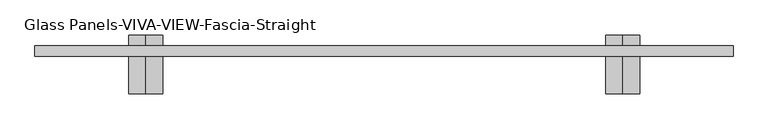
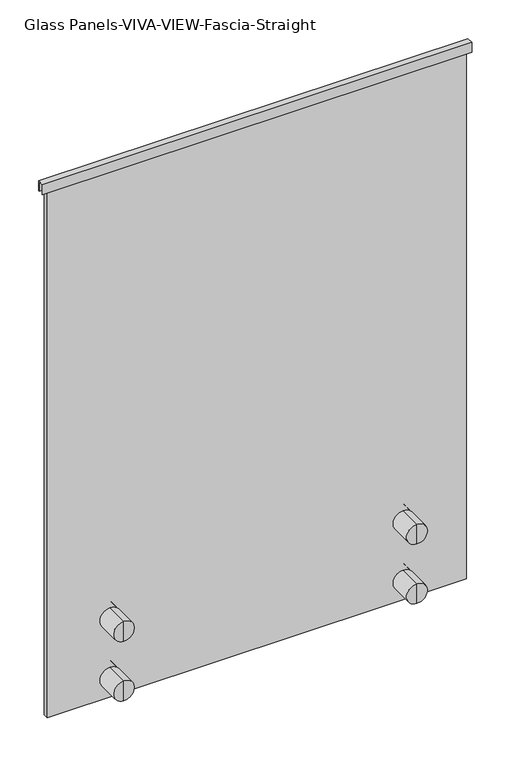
"""IFC4 building model written with IfcOpenShell, lengths in millimetres: railing geometry, Glass Panels-VIVA-VIEW-Fascia-Straight."""

import ifcopenshell
import ifcopenshell.guid

model = None  # the IFC model being written
_history = None  # IfcOwnerHistory: only IFC2X3 demands one
_inside = {}  # id of a spatial element -> (the spatial element, [elements in it])
_under = {}  # id of a project, library or spatial element -> (it, [spatial elements below it])
_declared = {}  # id of a project -> (the project, [libraries it declares])
_typed = {}  # id of a type object -> (the type object, [elements of that type])
_made_of = {}  # id of a material, layer set ... -> (it, [elements and type objects made of it])


def new_model(schema):
    """Start an empty IFC model of exactly this schema.

    Asked for "IFC4X3", IfcOpenShell would pick the latest addendum, in which some entities
    have other attributes; the version numbers below select the first issue.
    IFC2X3 requires an IfcOwnerHistory on every rooted entity: one is made here for all.
    """
    global model, _history
    if schema == "IFC4X3":
        model = ifcopenshell.file(schema_version=(4, 3, 0, 0))
    else:
        model = ifcopenshell.file(schema=schema)
    _inside.clear()
    _under.clear()
    _declared.clear()
    _typed.clear()
    _made_of.clear()
    _history = None
    if model.schema == "IFC2X3":
        org = make("IfcOrganization", Name="unknown")
        user = make(
            "IfcPersonAndOrganization",
            ThePerson=make("IfcPerson", FamilyName="unknown"),
            TheOrganization=org,
        )
        app = make(
            "IfcApplication",
            ApplicationDeveloper=org,
            Version="unknown",
            ApplicationFullName="unknown",
            ApplicationIdentifier="unknown",
        )
        _history = make(
            "IfcOwnerHistory",
            OwningUser=user,
            OwningApplication=app,
            ChangeAction="ADDED",
            CreationDate=0,
        )
    return model


def make(cls, **values):
    """One entity of the class cls with the attributes given. An attribute that is None is left unset."""
    return model.create_entity(
        cls, **{name: value for name, value in values.items() if value is not None}
    )


def rooted(cls, **values):
    """An entity with a GlobalId (a new one), such as an element, a storey or a relation."""
    return make(cls, GlobalId=ifcopenshell.guid.new(), OwnerHistory=_history, **values)


def si_unit(unit_type, name, prefix=None):
    """IfcSIUnit, for example si_unit("LENGTHUNIT", "METRE", prefix="MILLI")."""
    return make("IfcSIUnit", UnitType=unit_type, Prefix=prefix, Name=name)


def assignment(units):
    """IfcUnitAssignment: the units of a project."""
    return None if units is None else make("IfcUnitAssignment", Units=units)


def point(xyz):
    """IfcCartesianPoint."""
    return None if xyz is None else make("IfcCartesianPoint", Coordinates=xyz)


def direction(xyz):
    """IfcDirection."""
    return None if xyz is None else make("IfcDirection", DirectionRatios=xyz)


def frame(location, z_axis=None, x_axis=None):
    """IfcAxis2Placement3D, a coordinate frame: its origin and axes. An axis left out is left unset."""
    return make(
        "IfcAxis2Placement3D",
        Location=point(location),
        Axis=direction(z_axis),
        RefDirection=direction(x_axis),
    )


def origin():
    """The frame at (0, 0, 0) with its axes left unset."""
    return frame((0.0, 0.0, 0.0))


def place(relative_to, where):
    """IfcLocalPlacement: puts the frame where relative to a parent placement (None: the world)."""
    return make(
        "IfcLocalPlacement", PlacementRelTo=relative_to, RelativePlacement=where
    )


def context(
    kind, dimensions, precision=None, world=None, true_north=None, identifier=None
):
    """IfcGeometricRepresentationContext, for example the 3D "Model" context."""
    return make(
        "IfcGeometricRepresentationContext",
        ContextIdentifier=identifier,
        ContextType=kind,
        CoordinateSpaceDimension=dimensions,
        Precision=precision,
        WorldCoordinateSystem=world,
        TrueNorth=true_north,
    )


def project(units=None, contexts=None):
    """IfcProject with its units and contexts."""
    return rooted(
        "IfcProject",
        Name="project",
        RepresentationContexts=contexts,
        UnitsInContext=assignment(units),
    )


def spatial(cls, under=None, at=None, **own):
    """A site, building, storey or space (cls), placed at a placement, below another one or the project."""
    s = rooted(cls, ObjectPlacement=at, **own)
    if under is not None:
        _under.setdefault(under.id(), (under, []))[1].append(s)
    return s


def polyline(points):
    """IfcPolyline through the points."""
    return make("IfcPolyline", Points=[point(p) for p in points])


def circle_curve(where, radius):
    """IfcCircle in the frame where."""
    return make("IfcCircle", Position=where, Radius=radius)


def outline(outer, holes=None, kind="AREA"):
    """IfcArbitraryClosedProfileDef: a profile drawn as a closed curve; with holes, ...WithVoids."""
    if holes is None:
        return make("IfcArbitraryClosedProfileDef", ProfileType=kind, OuterCurve=outer)
    return make(
        "IfcArbitraryProfileDefWithVoids",
        ProfileType=kind,
        OuterCurve=outer,
        InnerCurves=holes,
    )


def extrude(swept, where, along, depth):
    """IfcExtrudedAreaSolid: the profile swept, set in the frame where, extruded along a direction by depth."""
    return make(
        "IfcExtrudedAreaSolid",
        SweptArea=swept,
        Position=where,
        ExtrudedDirection=direction(along),
        Depth=depth,
    )


def shape(context_of_items, identifier, shape_type, items):
    """IfcShapeRepresentation: the items that make up one representation, for example the "Body"."""
    return make(
        "IfcShapeRepresentation",
        ContextOfItems=context_of_items,
        RepresentationIdentifier=identifier,
        RepresentationType=shape_type,
        Items=items,
    )


def source(mapping_origin, context_of_items, identifier, shape_type, items):
    """IfcRepresentationMap: a shape defined once, which mapped items show again and again."""
    return make(
        "IfcRepresentationMap",
        MappingOrigin=mapping_origin,
        MappedRepresentation=shape(context_of_items, identifier, shape_type, items),
    )


def transform(
    local_origin,
    x_axis=None,
    y_axis=None,
    z_axis=None,
    scale=None,
    scale2=None,
    scale3=None,
    uniform=True,
):
    """IfcCartesianTransformationOperator3D, or its non-uniform kind. x_axis, y_axis, z_axis: its Axis1, 2, 3."""
    if uniform:
        return make(
            "IfcCartesianTransformationOperator3D",
            Axis1=direction(x_axis),
            Axis2=direction(y_axis),
            LocalOrigin=point(local_origin),
            Scale=scale,
            Axis3=direction(z_axis),
        )
    return make(
        "IfcCartesianTransformationOperator3DnonUniform",
        Axis1=direction(x_axis),
        Axis2=direction(y_axis),
        LocalOrigin=point(local_origin),
        Scale=scale,
        Axis3=direction(z_axis),
        Scale2=scale2,
        Scale3=scale3,
    )


def mapped(mapping_source, mapping_target):
    """IfcMappedItem: shows the shape of a source again, moved by a transform."""
    return make(
        "IfcMappedItem", MappingSource=mapping_source, MappingTarget=mapping_target
    )


def made_of(thing, what):
    """Note that an element or type object is made of a material, layer set ...; save() writes the relation."""
    if what is not None:
        _made_of.setdefault(what.id(), (what, []))[1].append(thing)
    return thing


def element(
    cls,
    number,
    at=None,
    inside=None,
    cuts=None,
    type_object=None,
    material=None,
    context=None,
    identifier="Body",
    shape_type=None,
    held_by="IfcProductDefinitionShape",
    body=None,
    shapes=None,
    **own,
):
    """One element of the class cls, such as IfcWall. Its Tag is "e" and its number.

    at: its placement. inside: the storey or other place that contains it. cuts: it is an
    opening in that element (IfcRelVoidsElement). A single representation is given by context,
    identifier, shape_type and body (its items); several are given by shapes. held_by: the class
    of the entity that holds the representations. save() writes the other relations.
    """
    e = rooted(cls, Tag="e%d" % number, ObjectPlacement=at, **own)
    if body is not None:
        shapes = [shape(context, identifier, shape_type, body)]
    if shapes is not None:
        e.Representation = make(held_by, Representations=shapes)
    if inside is not None:
        _inside.setdefault(inside.id(), (inside, []))[1].append(e)
    if cuts is not None:
        rooted(
            "IfcRelVoidsElement", RelatingBuildingElement=cuts, RelatedOpeningElement=e
        )
    if type_object is not None:
        _typed.setdefault(type_object.id(), (type_object, []))[1].append(e)
    return made_of(e, material)


def aggregate(whole, parts):
    """IfcRelAggregates: a whole, such as a stair, and the parts it consists of."""
    return rooted("IfcRelAggregates", RelatingObject=whole, RelatedObjects=parts)


def save(model, path):
    """Write the relations noted so far, then the file.

    IfcRelAggregates (storeys below a building ...), IfcRelContainedInSpatialStructure (elements
    in a storey), IfcRelDefinesByType, IfcRelAssociatesMaterial and IfcRelDeclares: one each for
    every whole, place, type object, material and project.
    """
    for whole, parts in _under.values():
        aggregate(whole, parts)
    for where, things in _inside.values():
        rooted(
            "IfcRelContainedInSpatialStructure",
            RelatedElements=things,
            RelatingStructure=where,
        )
    for kind, things in _typed.values():
        rooted("IfcRelDefinesByType", RelatedObjects=things, RelatingType=kind)
    for what, things in _made_of.values():
        rooted("IfcRelAssociatesMaterial", RelatedObjects=things, RelatingMaterial=what)
    for by, libraries in _declared.values():
        rooted("IfcRelDeclares", RelatingContext=by, RelatedDefinitions=libraries)
    model.write(path)


def plane_surface(at):
    """IfcPlane: the flat surface through the origin of the frame at, square to its z axis."""
    return make("IfcPlane", Position=at)


def cylinder_surface(at, radius):
    """IfcCylindricalSurface: all points at the distance radius from the z axis of the frame at."""
    return make("IfcCylindricalSurface", Position=at, Radius=radius)


def advanced_brep(points, edges, surfaces, faces):
    """IfcAdvancedBrep: a solid bounded by faces that lie on surfaces and meet in shared edges.

    An edge is (start, end): straight between two places in points (the first is 0);
    or (start, end, curve); or (start, end, curve, False) where it runs against its curve.
    A face is (place in surfaces, loops), or (place, loops, False) where it looks against
    its surface's normal. A loop lists edges by number (the first is 1), with a minus sign
    where the edge is run from its end to its start. The first loop is the outer one.
    """
    corners = [point(p) for p in points]
    vertices = [make("IfcVertexPoint", VertexGeometry=c) for c in corners]
    made = []
    for start, end, *more in edges:
        made.append(
            make(
                "IfcEdgeCurve",
                EdgeStart=vertices[start],
                EdgeEnd=vertices[end],
                EdgeGeometry=more[0] if more else make("IfcPolyline", Points=[corners[start], corners[end]]),
                SameSense=more[1] if len(more) > 1 else True,
            )
        )
    hull = []
    for where, loops, *sense in faces:
        bounds = []
        for j, loop in enumerate(loops):
            ring = [make("IfcOrientedEdge", EdgeElement=made[abs(k) - 1], Orientation=k > 0) for k in loop]
            bounds.append(
                make(
                    "IfcFaceOuterBound" if j == 0 else "IfcFaceBound",
                    Bound=make("IfcEdgeLoop", EdgeList=ring),
                    Orientation=True,
                )
            )
        hull.append(make("IfcAdvancedFace", Bounds=bounds, FaceSurface=surfaces[where], SameSense=sense[0] if sense else True))
    return make("IfcAdvancedBrep", Outer=make("IfcClosedShell", CfsFaces=hull))


def glass_panels_viva_view_fascia_straight_2bf10b43(model_context):
    return source(origin(), model_context, "Body", "SolidModel", [
        extrude(outline(polyline([(-1461.4844585, 4140.2), (-1445.6094585, 4140.2), (-1445.6094585, 4114.8), (-1447.1969585, 4114.8), (-1447.1969585, 4138.6125), (-1459.8969585, 4138.6125), (-1459.8969585, 4114.8), (-1461.4844585, 4114.8), (-1461.4844585, 4140.2)])), frame((19925.5266433, 0.0, 0.0), z_axis=(1.0, 0.0, 0.0), x_axis=(0.0, 1.0, 0.0)), (0.0, 0.0, 1.0), 1041.4),
        advanced_brep(
        [(20091.0096899, -1429.7347524, 2794.0), (20091.0096899, -1429.7347524, 2819.4), (20091.0096899, -1429.7347524, 2844.8), (20091.0096899, -1447.1972524, 2794.0), (20091.0096899, -1447.1972524, 2844.8), (20091.0096899, -1447.1972524, 2813.685), (20091.0096899, -1447.1972524, 2825.115), (20091.0096899, -1459.8972524, 2813.685), (20091.0096899, -1459.8972524, 2825.115), (20091.0096899, -1459.8972524, 2794.0), (20091.0096899, -1459.8972524, 2844.8), (20091.0096899, -1517.0471054, 2794.0), (20091.0096899, -1517.0471054, 2844.8), (20091.0096899, -1517.0471054, 2819.4)],
        [
            (0, 1),
            (1, 2),
            (2, 0, circle_curve(frame((20091.0096899, -1429.7347524, 2819.4), z_axis=(0.0, 1.0, 0.0), x_axis=(0.0, 0.0, 1.0)), 25.4)),
            (0, 2, circle_curve(frame((20091.0096899, -1429.7347524, 2819.4), z_axis=(0.0, 1.0, 0.0), x_axis=(0.0, 0.0, 1.0)), 25.4)),
            (3, 0),
            (2, 4),
            (4, 3, circle_curve(frame((20091.0096899, -1447.1972524, 2819.4), z_axis=(0.0, 1.0, 0.0), x_axis=(0.0, 0.0, 1.0)), 25.4)),
            (3, 4, circle_curve(frame((20091.0096899, -1447.1972524, 2819.4), z_axis=(0.0, 1.0, 0.0), x_axis=(0.0, 0.0, 1.0)), 25.4)),
            (5, 3),
            (4, 6),
            (6, 5, circle_curve(frame((20091.0096899, -1447.1972524, 2819.4), z_axis=(0.0, 1.0, 0.0), x_axis=(0.0, 0.0, 1.0)), 5.715)),
            (5, 6, circle_curve(frame((20091.0096899, -1447.1972524, 2819.4), z_axis=(0.0, 1.0, 0.0), x_axis=(0.0, 0.0, 1.0)), 5.715)),
            (7, 5),
            (6, 8),
            (8, 7, circle_curve(frame((20091.0096899, -1459.8972524, 2819.4), z_axis=(0.0, 1.0, 0.0), x_axis=(0.0, 0.0, 1.0)), 5.715)),
            (7, 8, circle_curve(frame((20091.0096899, -1459.8972524, 2819.4), z_axis=(0.0, 1.0, 0.0), x_axis=(0.0, 0.0, 1.0)), 5.715)),
            (9, 7),
            (8, 10),
            (10, 9, circle_curve(frame((20091.0096899, -1459.8972524, 2819.4), z_axis=(0.0, 1.0, 0.0), x_axis=(0.0, 0.0, 1.0)), 25.4)),
            (9, 10, circle_curve(frame((20091.0096899, -1459.8972524, 2819.4), z_axis=(0.0, 1.0, 0.0), x_axis=(0.0, 0.0, 1.0)), 25.4)),
            (11, 9),
            (10, 12),
            (12, 11, circle_curve(frame((20091.0096899, -1517.0471054, 2819.4), z_axis=(0.0, 1.0, 0.0), x_axis=(0.0, 0.0, 1.0)), 25.4)),
            (11, 12, circle_curve(frame((20091.0096899, -1517.0471054, 2819.4), z_axis=(0.0, 1.0, 0.0), x_axis=(0.0, 0.0, 1.0)), 25.4)),
            (13, 11),
            (12, 13),
        ],
        [
            plane_surface(frame((20091.0096899, -1429.7347524, 2819.4), z_axis=(0.0, 1.0, 0.0), x_axis=(0.0, 0.0, 1.0))),
            cylinder_surface(frame((20091.0096899, -1361.4721054, 2819.4), z_axis=(0.0, -1.0, 0.0), x_axis=(0.0, 0.0, 1.0)), 25.4),
            plane_surface(frame((20091.0096899, -1447.1972524, 2819.4), z_axis=(0.0, -1.0, 0.0), x_axis=(0.0, 0.0, 1.0))),
            cylinder_surface(frame((20091.0096899, -1361.4721054, 2819.4), z_axis=(0.0, -1.0, 0.0), x_axis=(0.0, 0.0, 1.0)), 5.715),
            plane_surface(frame((20091.0096899, -1459.8972524, 2819.4), z_axis=(0.0, 1.0, 0.0), x_axis=(0.0, 0.0, 1.0))),
            plane_surface(frame((20091.0096899, -1517.0471054, 2819.4), z_axis=(0.0, -1.0, 0.0), x_axis=(0.0, 0.0, 1.0))),
        ],
        [
            (0, [[1, 2, 3]]),
            (0, [[-2, -1, 4]]),
            (1, [[5, -3, 6, 7]]),
            (1, [[-6, -4, -5, 8]]),
            (2, [[9, -7, 10, 11]]),
            (2, [[-10, -8, -9, 12]]),
            (3, [[13, -11, 14, 15]]),
            (3, [[-14, -12, -13, 16]]),
            (4, [[17, -15, 18, 19]]),
            (4, [[-18, -16, -17, 20]]),
            (1, [[21, -19, 22, 23]]),
            (1, [[-22, -20, -21, 24]]),
            (5, [[25, -23, 26]]),
            (5, [[-26, -24, -25]]),
        ],
    ),
        advanced_brep(
        [(20091.0096899, -1447.1972524, 2966.085), (20091.0096899, -1447.1972524, 2946.4), (20091.0096899, -1447.1972524, 2997.2), (20091.0096899, -1447.1972524, 2977.515), (20091.0096899, -1459.8972524, 2966.085), (20091.0096899, -1459.8972524, 2977.515), (20091.0096899, -1459.8972524, 2946.4), (20091.0096899, -1459.8972524, 2997.2), (20091.0096899, -1517.0471054, 2946.4), (20091.0096899, -1517.0471054, 2997.2), (20091.0096899, -1517.0471054, 2971.8), (20091.0096899, -1429.7347524, 2946.4), (20091.0096899, -1429.7347524, 2971.8), (20091.0096899, -1429.7347524, 2997.2)],
        [
            (0, 1),
            (1, 2, circle_curve(frame((20091.0096899, -1447.1972524, 2971.8), z_axis=(0.0, -1.0, 0.0), x_axis=(0.0, 0.0, 1.0)), 25.4)),
            (2, 3),
            (3, 0, circle_curve(frame((20091.0096899, -1447.1972524, 2971.8), z_axis=(0.0, 1.0, 0.0), x_axis=(0.0, 0.0, 1.0)), 5.715)),
            (2, 1, circle_curve(frame((20091.0096899, -1447.1972524, 2971.8), z_axis=(0.0, -1.0, 0.0), x_axis=(0.0, 0.0, 1.0)), 25.4)),
            (0, 3, circle_curve(frame((20091.0096899, -1447.1972524, 2971.8), z_axis=(0.0, 1.0, 0.0), x_axis=(0.0, 0.0, 1.0)), 5.715)),
            (4, 0),
            (3, 5),
            (5, 4, circle_curve(frame((20091.0096899, -1459.8972524, 2971.8), z_axis=(0.0, 1.0, 0.0), x_axis=(0.0, 0.0, 1.0)), 5.715)),
            (4, 5, circle_curve(frame((20091.0096899, -1459.8972524, 2971.8), z_axis=(0.0, 1.0, 0.0), x_axis=(0.0, 0.0, 1.0)), 5.715)),
            (6, 4),
            (5, 7),
            (7, 6, circle_curve(frame((20091.0096899, -1459.8972524, 2971.8), z_axis=(0.0, 1.0, 0.0), x_axis=(0.0, 0.0, 1.0)), 25.4)),
            (6, 7, circle_curve(frame((20091.0096899, -1459.8972524, 2971.8), z_axis=(0.0, 1.0, 0.0), x_axis=(0.0, 0.0, 1.0)), 25.4)),
            (8, 6),
            (7, 9),
            (9, 8, circle_curve(frame((20091.0096899, -1517.0471054, 2971.8), z_axis=(0.0, 1.0, 0.0), x_axis=(0.0, 0.0, 1.0)), 25.4)),
            (8, 9, circle_curve(frame((20091.0096899, -1517.0471054, 2971.8), z_axis=(0.0, 1.0, 0.0), x_axis=(0.0, 0.0, 1.0)), 25.4)),
            (10, 8),
            (9, 10),
            (11, 12),
            (12, 13),
            (13, 11, circle_curve(frame((20091.0096899, -1429.7347524, 2971.8), z_axis=(0.0, 1.0, 0.0), x_axis=(0.0, 0.0, 1.0)), 25.4)),
            (11, 13, circle_curve(frame((20091.0096899, -1429.7347524, 2971.8), z_axis=(0.0, 1.0, 0.0), x_axis=(0.0, 0.0, 1.0)), 25.4)),
            (1, 11),
            (13, 2),
        ],
        [
            plane_surface(frame((20091.0096899, -1447.1972524, 2971.8), z_axis=(0.0, -1.0, 0.0), x_axis=(0.0, 0.0, 1.0))),
            cylinder_surface(frame((20091.0096899, -1361.4721054, 2971.8), z_axis=(0.0, -1.0, 0.0), x_axis=(0.0, 0.0, 1.0)), 5.715),
            plane_surface(frame((20091.0096899, -1459.8972524, 2971.8), z_axis=(0.0, 1.0, 0.0), x_axis=(0.0, 0.0, 1.0))),
            cylinder_surface(frame((20091.0096899, -1361.4721054, 2971.8), z_axis=(0.0, -1.0, 0.0), x_axis=(0.0, 0.0, 1.0)), 25.4),
            plane_surface(frame((20091.0096899, -1517.0471054, 2971.8), z_axis=(0.0, -1.0, 0.0), x_axis=(0.0, 0.0, 1.0))),
            plane_surface(frame((20091.0096899, -1429.7347524, 2971.8), z_axis=(0.0, 1.0, 0.0), x_axis=(0.0, 0.0, 1.0))),
        ],
        [
            (0, [[1, 2, 3, 4]]),
            (0, [[-3, 5, -1, 6]]),
            (1, [[7, -4, 8, 9]]),
            (1, [[-8, -6, -7, 10]]),
            (2, [[11, -9, 12, 13]]),
            (2, [[-12, -10, -11, 14]]),
            (3, [[15, -13, 16, 17]]),
            (3, [[-16, -14, -15, 18]]),
            (4, [[19, -17, 20]]),
            (4, [[-20, -18, -19]]),
            (5, [[21, 22, 23]]),
            (5, [[-22, -21, 24]]),
            (3, [[25, -23, 26, -2]]),
            (3, [[-26, -24, -25, -5]]),
        ],
    ),
        advanced_brep(
        [(20802.2096899, -1429.7347524, 2794.0), (20802.2096899, -1429.7347524, 2819.4), (20802.2096899, -1429.7347524, 2844.8), (20802.2096899, -1447.1972524, 2794.0), (20802.2096899, -1447.1972524, 2844.8), (20802.2096899, -1447.1972524, 2813.685), (20802.2096899, -1447.1972524, 2825.115), (20802.2096899, -1459.8972524, 2813.685), (20802.2096899, -1459.8972524, 2825.115), (20802.2096899, -1459.8972524, 2794.0), (20802.2096899, -1459.8972524, 2844.8), (20802.2096899, -1517.0471054, 2794.0), (20802.2096899, -1517.0471054, 2844.8), (20802.2096899, -1517.0471054, 2819.4)],
        [
            (0, 1),
            (1, 2),
            (2, 0, circle_curve(frame((20802.2096899, -1429.7347524, 2819.4), z_axis=(0.0, 1.0, 0.0), x_axis=(0.0, 0.0, 1.0)), 25.4)),
            (0, 2, circle_curve(frame((20802.2096899, -1429.7347524, 2819.4), z_axis=(0.0, 1.0, 0.0), x_axis=(0.0, 0.0, 1.0)), 25.4)),
            (3, 0),
            (2, 4),
            (4, 3, circle_curve(frame((20802.2096899, -1447.1972524, 2819.4), z_axis=(0.0, 1.0, 0.0), x_axis=(0.0, 0.0, 1.0)), 25.4)),
            (3, 4, circle_curve(frame((20802.2096899, -1447.1972524, 2819.4), z_axis=(0.0, 1.0, 0.0), x_axis=(0.0, 0.0, 1.0)), 25.4)),
            (5, 3),
            (4, 6),
            (6, 5, circle_curve(frame((20802.2096899, -1447.1972524, 2819.4), z_axis=(0.0, 1.0, 0.0), x_axis=(0.0, 0.0, 1.0)), 5.715)),
            (5, 6, circle_curve(frame((20802.2096899, -1447.1972524, 2819.4), z_axis=(0.0, 1.0, 0.0), x_axis=(0.0, 0.0, 1.0)), 5.715)),
            (7, 5),
            (6, 8),
            (8, 7, circle_curve(frame((20802.2096899, -1459.8972524, 2819.4), z_axis=(0.0, 1.0, 0.0), x_axis=(0.0, 0.0, 1.0)), 5.715)),
            (7, 8, circle_curve(frame((20802.2096899, -1459.8972524, 2819.4), z_axis=(0.0, 1.0, 0.0), x_axis=(0.0, 0.0, 1.0)), 5.715)),
            (9, 7),
            (8, 10),
            (10, 9, circle_curve(frame((20802.2096899, -1459.8972524, 2819.4), z_axis=(0.0, 1.0, 0.0), x_axis=(0.0, 0.0, 1.0)), 25.4)),
            (9, 10, circle_curve(frame((20802.2096899, -1459.8972524, 2819.4), z_axis=(0.0, 1.0, 0.0), x_axis=(0.0, 0.0, 1.0)), 25.4)),
            (11, 9),
            (10, 12),
            (12, 11, circle_curve(frame((20802.2096899, -1517.0471054, 2819.4), z_axis=(0.0, 1.0, 0.0), x_axis=(0.0, 0.0, 1.0)), 25.4)),
            (11, 12, circle_curve(frame((20802.2096899, -1517.0471054, 2819.4), z_axis=(0.0, 1.0, 0.0), x_axis=(0.0, 0.0, 1.0)), 25.4)),
            (13, 11),
            (12, 13),
        ],
        [
            plane_surface(frame((20802.2096899, -1429.7347524, 2819.4), z_axis=(0.0, 1.0, 0.0), x_axis=(0.0, 0.0, 1.0))),
            cylinder_surface(frame((20802.2096899, -1361.4721054, 2819.4), z_axis=(0.0, -1.0, 0.0), x_axis=(0.0, 0.0, 1.0)), 25.4),
            plane_surface(frame((20802.2096899, -1447.1972524, 2819.4), z_axis=(0.0, -1.0, 0.0), x_axis=(0.0, 0.0, 1.0))),
            cylinder_surface(frame((20802.2096899, -1361.4721054, 2819.4), z_axis=(0.0, -1.0, 0.0), x_axis=(0.0, 0.0, 1.0)), 5.715),
            plane_surface(frame((20802.2096899, -1459.8972524, 2819.4), z_axis=(0.0, 1.0, 0.0), x_axis=(0.0, 0.0, 1.0))),
            plane_surface(frame((20802.2096899, -1517.0471054, 2819.4), z_axis=(0.0, -1.0, 0.0), x_axis=(0.0, 0.0, 1.0))),
        ],
        [
            (0, [[1, 2, 3]]),
            (0, [[-2, -1, 4]]),
            (1, [[5, -3, 6, 7]]),
            (1, [[-6, -4, -5, 8]]),
            (2, [[9, -7, 10, 11]]),
            (2, [[-10, -8, -9, 12]]),
            (3, [[13, -11, 14, 15]]),
            (3, [[-14, -12, -13, 16]]),
            (4, [[17, -15, 18, 19]]),
            (4, [[-18, -16, -17, 20]]),
            (1, [[21, -19, 22, 23]]),
            (1, [[-22, -20, -21, 24]]),
            (5, [[25, -23, 26]]),
            (5, [[-26, -24, -25]]),
        ],
    ),
        advanced_brep(
        [(20802.2096899, -1447.1972524, 2966.085), (20802.2096899, -1447.1972524, 2946.4), (20802.2096899, -1447.1972524, 2997.2), (20802.2096899, -1447.1972524, 2977.515), (20802.2096899, -1459.8972524, 2966.085), (20802.2096899, -1459.8972524, 2977.515), (20802.2096899, -1459.8972524, 2946.4), (20802.2096899, -1459.8972524, 2997.2), (20802.2096899, -1517.0471054, 2946.4), (20802.2096899, -1517.0471054, 2997.2), (20802.2096899, -1517.0471054, 2971.8), (20802.2096899, -1429.7347524, 2946.4), (20802.2096899, -1429.7347524, 2971.8), (20802.2096899, -1429.7347524, 2997.2)],
        [
            (0, 1),
            (1, 2, circle_curve(frame((20802.2096899, -1447.1972524, 2971.8), z_axis=(0.0, -1.0, 0.0), x_axis=(0.0, 0.0, 1.0)), 25.4)),
            (2, 3),
            (3, 0, circle_curve(frame((20802.2096899, -1447.1972524, 2971.8), z_axis=(0.0, 1.0, 0.0), x_axis=(0.0, 0.0, 1.0)), 5.715)),
            (2, 1, circle_curve(frame((20802.2096899, -1447.1972524, 2971.8), z_axis=(0.0, -1.0, 0.0), x_axis=(0.0, 0.0, 1.0)), 25.4)),
            (0, 3, circle_curve(frame((20802.2096899, -1447.1972524, 2971.8), z_axis=(0.0, 1.0, 0.0), x_axis=(0.0, 0.0, 1.0)), 5.715)),
            (4, 0),
            (3, 5),
            (5, 4, circle_curve(frame((20802.2096899, -1459.8972524, 2971.8), z_axis=(0.0, 1.0, 0.0), x_axis=(0.0, 0.0, 1.0)), 5.715)),
            (4, 5, circle_curve(frame((20802.2096899, -1459.8972524, 2971.8), z_axis=(0.0, 1.0, 0.0), x_axis=(0.0, 0.0, 1.0)), 5.715)),
            (6, 4),
            (5, 7),
            (7, 6, circle_curve(frame((20802.2096899, -1459.8972524, 2971.8), z_axis=(0.0, 1.0, 0.0), x_axis=(0.0, 0.0, 1.0)), 25.4)),
            (6, 7, circle_curve(frame((20802.2096899, -1459.8972524, 2971.8), z_axis=(0.0, 1.0, 0.0), x_axis=(0.0, 0.0, 1.0)), 25.4)),
            (8, 6),
            (7, 9),
            (9, 8, circle_curve(frame((20802.2096899, -1517.0471054, 2971.8), z_axis=(0.0, 1.0, 0.0), x_axis=(0.0, 0.0, 1.0)), 25.4)),
            (8, 9, circle_curve(frame((20802.2096899, -1517.0471054, 2971.8), z_axis=(0.0, 1.0, 0.0), x_axis=(0.0, 0.0, 1.0)), 25.4)),
            (10, 8),
            (9, 10),
            (11, 12),
            (12, 13),
            (13, 11, circle_curve(frame((20802.2096899, -1429.7347524, 2971.8), z_axis=(0.0, 1.0, 0.0), x_axis=(0.0, 0.0, 1.0)), 25.4)),
            (11, 13, circle_curve(frame((20802.2096899, -1429.7347524, 2971.8), z_axis=(0.0, 1.0, 0.0), x_axis=(0.0, 0.0, 1.0)), 25.4)),
            (1, 11),
            (13, 2),
        ],
        [
            plane_surface(frame((20802.2096899, -1447.1972524, 2971.8), z_axis=(0.0, -1.0, 0.0), x_axis=(0.0, 0.0, 1.0))),
            cylinder_surface(frame((20802.2096899, -1361.4721054, 2971.8), z_axis=(0.0, -1.0, 0.0), x_axis=(0.0, 0.0, 1.0)), 5.715),
            plane_surface(frame((20802.2096899, -1459.8972524, 2971.8), z_axis=(0.0, 1.0, 0.0), x_axis=(0.0, 0.0, 1.0))),
            cylinder_surface(frame((20802.2096899, -1361.4721054, 2971.8), z_axis=(0.0, -1.0, 0.0), x_axis=(0.0, 0.0, 1.0)), 25.4),
            plane_surface(frame((20802.2096899, -1517.0471054, 2971.8), z_axis=(0.0, -1.0, 0.0), x_axis=(0.0, 0.0, 1.0))),
            plane_surface(frame((20802.2096899, -1429.7347524, 2971.8), z_axis=(0.0, 1.0, 0.0), x_axis=(0.0, 0.0, 1.0))),
        ],
        [
            (0, [[1, 2, 3, 4]]),
            (0, [[-3, 5, -1, 6]]),
            (1, [[7, -4, 8, 9]]),
            (1, [[-8, -6, -7, 10]]),
            (2, [[11, -9, 12, 13]]),
            (2, [[-12, -10, -11, 14]]),
            (3, [[15, -13, 16, 17]]),
            (3, [[-16, -14, -15, 18]]),
            (4, [[19, -17, 20]]),
            (4, [[-20, -18, -19]]),
            (5, [[21, 22, 23]]),
            (5, [[-22, -21, 24]]),
            (3, [[25, -23, 26, -2]]),
            (3, [[-26, -24, -25, -5]]),
        ],
    ),
        extrude(outline(polyline([(19938.6096899, -1459.8969585), (19938.6096899, -1447.1969585), (20954.6096899, -1447.1969585), (20954.6096899, -1459.8969585), (19938.6096899, -1459.8969585)])), frame((0.0, 0.0, 2768.6), z_axis=(0.0, 0.0, 1.0), x_axis=(1.0, 0.0, 0.0)), (0.0, 0.0, 1.0), 1370.0125),
    ])


if __name__ == "__main__":
    model = new_model("IFC4")
    model_context = context("Model", 3, world=origin())
    ifc_project = project(units=[si_unit("LENGTHUNIT", "METRE", prefix="MILLI")], contexts=[model_context])
    site = spatial("IfcSite", under=ifc_project)
    building = spatial("IfcBuilding", under=site)
    placement = place(None, origin())
    glass_panels_viva_view_fascia_straight_shape = glass_panels_viva_view_fascia_straight_2bf10b43(model_context)
    element("IfcRailing", 1, ObjectType="Glass Panels-VIVA-VIEW-Fascia-Straight", at=placement, inside=building, context=model_context, shape_type="MappedRepresentation", body=[
        mapped(glass_panels_viva_view_fascia_straight_shape, transform((0.0, 0.0, 0.0), x_axis=(1.0, 0.0, 0.0), y_axis=(0.0, 1.0, 0.0), z_axis=(0.0, 0.0, 1.0))),
    ])
    save(model, "model.ifc")
